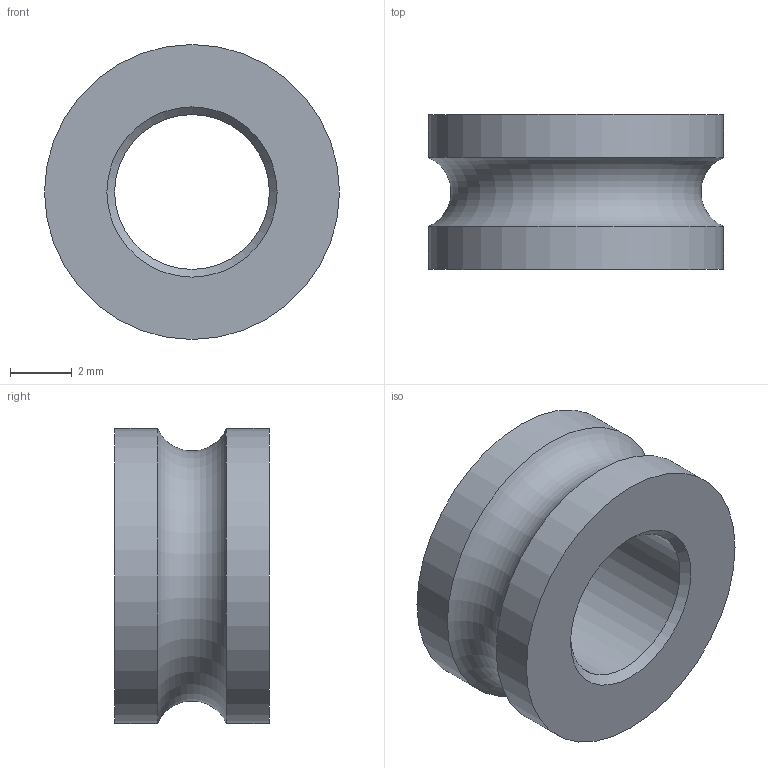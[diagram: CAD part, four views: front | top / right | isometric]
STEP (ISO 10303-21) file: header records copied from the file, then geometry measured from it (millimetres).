
FILE_DESCRIPTION(/* description */ ('STEP AP242 Edition 2','CAx-IF Rec.Pracs.---Representation and Presentation of Product Manufacturing Information (PMI)---4.0---2014-10-13','CAx-IF Rec.Pracs.---3D Tessellated Geometry---0.4---2014-09-14','2;1','CAx-IF Rec.Pracs.---User Defined Attributes---1.5---2016-08-15'),/* implementation_level */ '2;1');
FILE_NAME(/* name */ 'Assembly V2 - 6153K113_Stainless Steel Ball Bearing (5)',/* time_stamp */ '2026-02-05T22:44:35Z',/* author */ (''),/* organization */ (''),/* preprocessor_version */ 'ST-DEVELOPER v20',/* originating_system */ 'ONSHAPE BY PTC INC, 1.210',/* authorisation */ ' ');
FILE_SCHEMA (('AP242_MANAGED_MODEL_BASED_3D_ENGINEERING_MIM_LF { 1 0 10303 442 3 1 4 }'));
Length unit declared in the file: metre
Products named in the file (1): 6153K113_Stainless Steel Ball Bearing
Bounding box: 9.53 x 5 x 9.53 mm (x, y, z)
Volume: 225 mm3; surface area: 336.6 mm2
Topology: 1 solids, 1 shells, 8 faces, 14 edges, 8 vertices
Faces by surface type: cylinder 3, plane 2, cone 2, torus 1
Full cylindrical faces by diameter (mm): 5 x1, 9.533 x2
Entity records: 190 total; most frequent: DIRECTION 34, CARTESIAN_POINT 25, AXIS2_PLACEMENT_3D 17, ORIENTED_EDGE 16, EDGE_LOOP 16, FACE_BOUND 16, EDGE_CURVE 8, VERTEX_POINT 8
